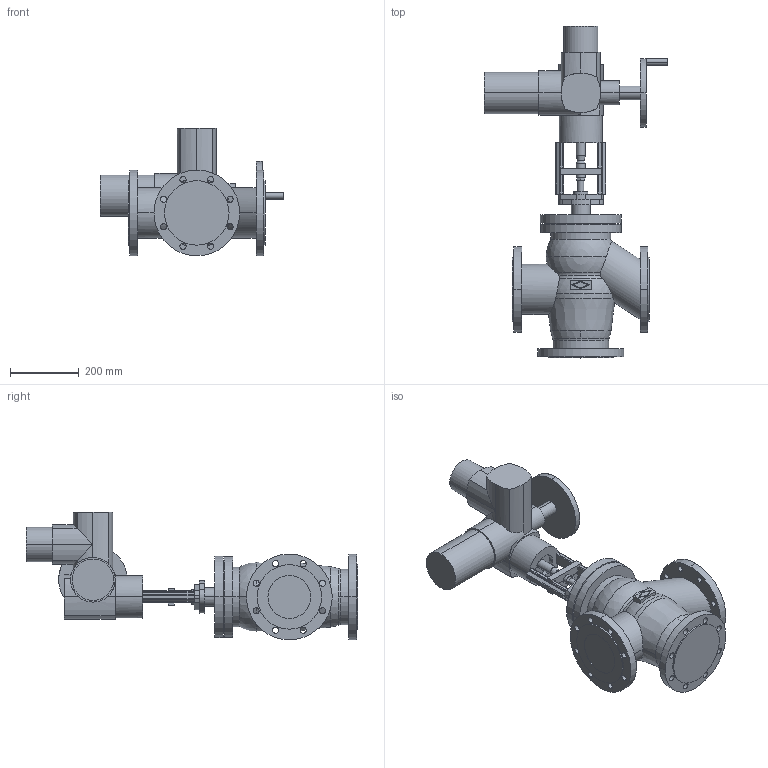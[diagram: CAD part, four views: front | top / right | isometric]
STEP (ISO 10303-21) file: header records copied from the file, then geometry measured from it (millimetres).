
FILE_DESCRIPTION(('OneSpaceDesigner STEP Export'),'2;1');
FILE_NAME('c000003162.stp','2007-01-26T12:35:30',(''),(''),'OneSpace Designer STEP processor for AP214 (Solid Model)','OneSpace Designer 14.00B 27-May-2006 (C) CoCreate Software GmbH','');
FILE_SCHEMA(('AUTOMOTIVE_DESIGN { 1 0 10303 214 1 1 1 1 }'));
Length unit declared in the file: millimetre
Products named in the file (2): 1; 2
Bounding box: 536 x 968 x 372 mm (x, y, z)
Volume: 29038332.5 mm3; surface area: 1260657.2 mm2
Topology: 2 solids, 2 shells, 322 faces, 833 edges, 526 vertices
Faces by surface type: cylinder 166, plane 134, torus 8, sphere 8, cone 6
Entity records: 9358 total; most frequent: CARTESIAN_POINT 2111, ORIENTED_EDGE 1650, DIRECTION 1324, EDGE_CURVE 825, VERTEX_POINT 526, AXIS2_PLACEMENT_3D 464, EDGE_LOOP 401, VECTOR 396
